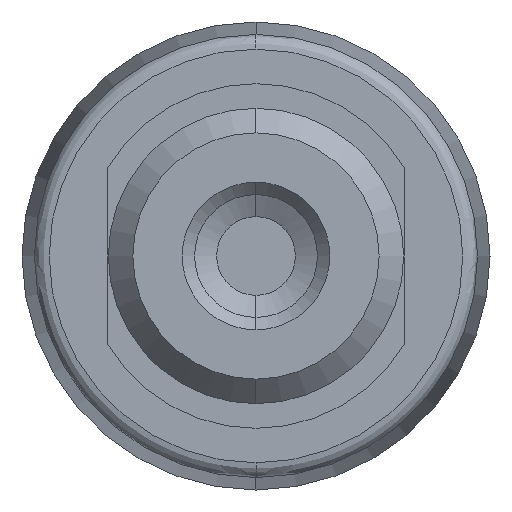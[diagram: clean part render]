
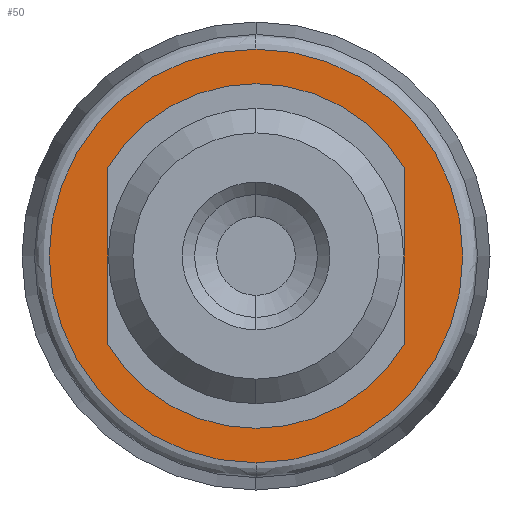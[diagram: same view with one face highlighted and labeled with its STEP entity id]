
A CAD part, left-side view. The second image highlights one B-rep face of the part: STEP entity #50.
In plain terms, the highlighted planar face has unit normal (-1, 0, 0).
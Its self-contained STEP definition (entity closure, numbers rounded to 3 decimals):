
#50=ADVANCED_FACE('',(#189,#190),#188,.T.);
#188=PLANE('',#617);
#189=FACE_OUTER_BOUND('',#618,.T.);
#190=FACE_BOUND('',#619,.T.);
#614=CARTESIAN_POINT('',(-1.,-8.73,-9.66));
#615=DIRECTION('',(-1.,0.,0.));
#616=DIRECTION('',(0.,0.,1.));
#617=AXIS2_PLACEMENT_3D('',#614,#615,#616);
#618=EDGE_LOOP('',(#999,#1000));
#619=EDGE_LOOP('',(#1001,#1002,#1003,#1004));
#999=ORIENTED_EDGE('',*,*,#1169,.T.);
#1000=ORIENTED_EDGE('',*,*,#1170,.T.);
#1001=ORIENTED_EDGE('',*,*,#1137,.F.);
#1002=ORIENTED_EDGE('',*,*,#1153,.T.);
#1003=ORIENTED_EDGE('',*,*,#1171,.F.);
#1004=ORIENTED_EDGE('',*,*,#1150,.T.);
#1137=EDGE_CURVE('',#1226,#1227,#1228,.T.);
#1150=EDGE_CURVE('',#1316,#1227,#1317,.T.);
#1153=EDGE_CURVE('',#1226,#1329,#1336,.T.);
#1169=EDGE_CURVE('',#1446,#1447,#1448,.T.);
#1170=EDGE_CURVE('',#1447,#1446,#1454,.T.);
#1171=EDGE_CURVE('',#1316,#1329,#1460,.T.);
#1226=VERTEX_POINT('',#1812);
#1227=VERTEX_POINT('',#1813);
#1228=CIRCLE('',#1817,3.5);
#1316=VERTEX_POINT('',#1872);
#1317=LINE('',#1873,#1874);
#1329=VERTEX_POINT('',#1879);
#1336=LINE('',#1883,#1884);
#1446=VERTEX_POINT('',#1959);
#1447=VERTEX_POINT('',#1960);
#1448=CIRCLE('',#1964,4.2);
#1454=CIRCLE('',#1968,4.2);
#1460=CIRCLE('',#1972,3.5);
#1812=CARTESIAN_POINT('',(-1.,-3.007,1.79));
#1813=CARTESIAN_POINT('',(-1.,3.007,1.79));
#1814=CARTESIAN_POINT('',(-1.,0.,0.));
#1815=DIRECTION('',(-1.,0.,0.));
#1816=DIRECTION('',(0.,0.,-1.));
#1817=AXIS2_PLACEMENT_3D('',#1814,#1815,#1816);
#1872=CARTESIAN_POINT('',(-1.,3.007,-1.79));
#1873=CARTESIAN_POINT('',(-1.,3.007,-1.79));
#1874=VECTOR('',#1875,3.581);
#1875=DIRECTION('',(0.,0.,1.));
#1879=CARTESIAN_POINT('',(-1.,-3.007,-1.79));
#1883=CARTESIAN_POINT('',(-1.,-3.007,1.79));
#1884=VECTOR('',#1885,3.581);
#1885=DIRECTION('',(0.,0.,-1.));
#1959=CARTESIAN_POINT('',(-1.,0.,4.2));
#1960=CARTESIAN_POINT('',(-1.,0.,-4.2));
#1961=CARTESIAN_POINT('',(-1.,0.,0.));
#1962=DIRECTION('',(-1.,0.,0.));
#1963=DIRECTION('',(0.,0.,1.));
#1964=AXIS2_PLACEMENT_3D('',#1961,#1962,#1963);
#1965=CARTESIAN_POINT('',(-1.,0.,0.));
#1966=DIRECTION('',(-1.,0.,0.));
#1967=DIRECTION('',(0.,0.,1.));
#1968=AXIS2_PLACEMENT_3D('',#1965,#1966,#1967);
#1969=CARTESIAN_POINT('',(-1.,0.,0.));
#1970=DIRECTION('',(-1.,0.,0.));
#1971=DIRECTION('',(0.,0.859,-0.512));
#1972=AXIS2_PLACEMENT_3D('',#1969,#1970,#1971);
